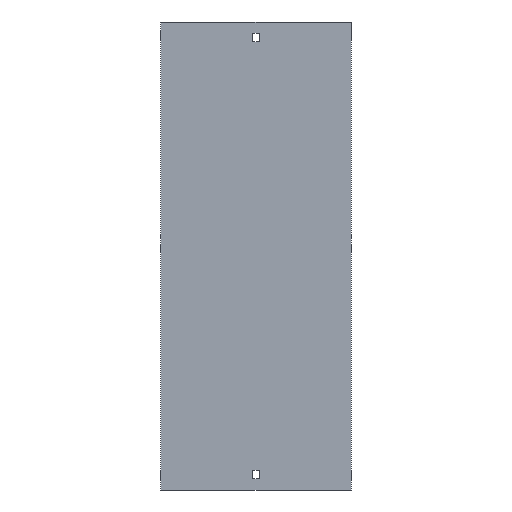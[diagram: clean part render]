
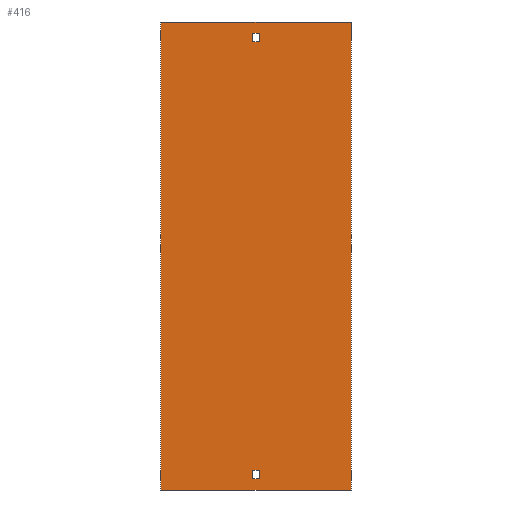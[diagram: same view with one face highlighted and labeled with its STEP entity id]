
A CAD part, front view. The second image highlights one B-rep face of the part: STEP entity #416.
In plain terms, the highlighted planar face has unit normal (0, -1, 0).
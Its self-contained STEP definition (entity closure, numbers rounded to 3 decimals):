
#20 = DIRECTION ( 'NONE',  ( -1., 0., 0. ) ) ;
#28 = ORIENTED_EDGE ( 'NONE', *, *, #365, .T. ) ;
#35 = CARTESIAN_POINT ( 'NONE',  ( -3.25, 0., 238. ) ) ;
#46 = EDGE_CURVE ( 'NONE', #728, #414, #58, .T. ) ;
#58 = LINE ( 'NONE', #500, #371 ) ;
#61 = VECTOR ( 'NONE', #1025, 1000. ) ;
#72 = VERTEX_POINT ( 'NONE', #413 ) ;
#74 = CARTESIAN_POINT ( 'NONE',  ( 3.25, 0., -229. ) ) ;
#76 = DIRECTION ( 'NONE',  ( -1., 0., 0. ) ) ;
#83 = VECTOR ( 'NONE', #792, 1000. ) ;
#89 = VERTEX_POINT ( 'NONE', #931 ) ;
#104 = EDGE_CURVE ( 'NONE', #530, #727, #322, .T. ) ;
#116 = CARTESIAN_POINT ( 'NONE',  ( 3.25, 0., -238. ) ) ;
#117 = CARTESIAN_POINT ( 'NONE',  ( -3.25, 0., -238. ) ) ;
#120 = EDGE_CURVE ( 'NONE', #678, #174, #1003, .T. ) ;
#129 = DIRECTION ( 'NONE',  ( 0., 0., -1. ) ) ;
#135 = EDGE_CURVE ( 'NONE', #666, #72, #750, .T. ) ;
#162 = DIRECTION ( 'NONE',  ( 1., 0., 0. ) ) ;
#174 = VERTEX_POINT ( 'NONE', #503 ) ;
#196 = VECTOR ( 'NONE', #162, 1000. ) ;
#197 = FACE_BOUND ( 'NONE', #903, .T. ) ;
#198 = ORIENTED_EDGE ( 'NONE', *, *, #46, .F. ) ;
#209 = CARTESIAN_POINT ( 'NONE',  ( 3.25, 0., 238. ) ) ;
#222 = VERTEX_POINT ( 'NONE', #435 ) ;
#227 = CARTESIAN_POINT ( 'NONE',  ( -102., 0., 250. ) ) ;
#233 = VECTOR ( 'NONE', #387, 1000. ) ;
#251 = VECTOR ( 'NONE', #557, 1000. ) ;
#274 = FACE_BOUND ( 'NONE', #562, .T. ) ;
#320 = VECTOR ( 'NONE', #974, 1000. ) ;
#321 = CARTESIAN_POINT ( 'NONE',  ( -102., 0., 250. ) ) ;
#322 = LINE ( 'NONE', #394, #233 ) ;
#349 = EDGE_CURVE ( 'NONE', #89, #728, #1033, .T. ) ;
#354 = ORIENTED_EDGE ( 'NONE', *, *, #845, .T. ) ;
#365 = EDGE_CURVE ( 'NONE', #901, #678, #839, .T. ) ;
#370 = VERTEX_POINT ( 'NONE', #753 ) ;
#371 = VECTOR ( 'NONE', #834, 1000. ) ;
#372 = ORIENTED_EDGE ( 'NONE', *, *, #104, .T. ) ;
#375 = CARTESIAN_POINT ( 'NONE',  ( 102., 0., 250. ) ) ;
#385 = DIRECTION ( 'NONE',  ( -1., 0., 0. ) ) ;
#387 = DIRECTION ( 'NONE',  ( 0., 0., -1. ) ) ;
#394 = CARTESIAN_POINT ( 'NONE',  ( 3.25, 0., -238. ) ) ;
#405 = ORIENTED_EDGE ( 'NONE', *, *, #1114, .F. ) ;
#413 = CARTESIAN_POINT ( 'NONE',  ( -3.25, 0., -229. ) ) ;
#414 = VERTEX_POINT ( 'NONE', #808 ) ;
#416 = ADVANCED_FACE ( 'NONE', ( #456, #274, #197 ), #889, .F. ) ;
#435 = CARTESIAN_POINT ( 'NONE',  ( 102., 0., 250. ) ) ;
#437 = CARTESIAN_POINT ( 'NONE',  ( -3.25, 0., 229. ) ) ;
#456 = FACE_OUTER_BOUND ( 'NONE', #1075, .T. ) ;
#482 = DIRECTION ( 'NONE',  ( 0., 1., 0. ) ) ;
#500 = CARTESIAN_POINT ( 'NONE',  ( -3.25, 0., 238. ) ) ;
#503 = CARTESIAN_POINT ( 'NONE',  ( 102., 0., -250. ) ) ;
#530 = VERTEX_POINT ( 'NONE', #74 ) ;
#531 = LINE ( 'NONE', #117, #886 ) ;
#557 = DIRECTION ( 'NONE',  ( 0., 0., 1. ) ) ;
#561 = ORIENTED_EDGE ( 'NONE', *, *, #120, .T. ) ;
#562 = EDGE_LOOP ( 'NONE', ( #1064, #198, #732, #405 ) ) ;
#584 = ORIENTED_EDGE ( 'NONE', *, *, #938, .F. ) ;
#586 = LINE ( 'NONE', #375, #636 ) ;
#599 = EDGE_CURVE ( 'NONE', #901, #222, #1101, .T. ) ;
#611 = LINE ( 'NONE', #437, #83 ) ;
#636 = VECTOR ( 'NONE', #129, 1000. ) ;
#651 = VECTOR ( 'NONE', #76, 1000. ) ;
#665 = CARTESIAN_POINT ( 'NONE',  ( -102., 0., -250. ) ) ;
#666 = VERTEX_POINT ( 'NONE', #1125 ) ;
#678 = VERTEX_POINT ( 'NONE', #874 ) ;
#680 = ORIENTED_EDGE ( 'NONE', *, *, #135, .T. ) ;
#697 = EDGE_CURVE ( 'NONE', #414, #370, #611, .T. ) ;
#709 = VECTOR ( 'NONE', #929, 1000. ) ;
#727 = VERTEX_POINT ( 'NONE', #116 ) ;
#728 = VERTEX_POINT ( 'NONE', #35 ) ;
#732 = ORIENTED_EDGE ( 'NONE', *, *, #349, .F. ) ;
#735 = LINE ( 'NONE', #738, #959 ) ;
#738 = CARTESIAN_POINT ( 'NONE',  ( -3.25, 0., -229. ) ) ;
#750 = LINE ( 'NONE', #769, #61 ) ;
#753 = CARTESIAN_POINT ( 'NONE',  ( 3.25, 0., 229. ) ) ;
#769 = CARTESIAN_POINT ( 'NONE',  ( -3.25, 0., -238. ) ) ;
#792 = DIRECTION ( 'NONE',  ( 1., 0., 0. ) ) ;
#808 = CARTESIAN_POINT ( 'NONE',  ( -3.25, 0., 229. ) ) ;
#812 = LINE ( 'NONE', #209, #251 ) ;
#834 = DIRECTION ( 'NONE',  ( 0., 0., -1. ) ) ;
#839 = LINE ( 'NONE', #882, #320 ) ;
#845 = EDGE_CURVE ( 'NONE', #727, #666, #531, .T. ) ;
#874 = CARTESIAN_POINT ( 'NONE',  ( -102., 0., -250. ) ) ;
#882 = CARTESIAN_POINT ( 'NONE',  ( -102., 0., 250. ) ) ;
#886 = VECTOR ( 'NONE', #20, 1000. ) ;
#889 = PLANE ( 'NONE',  #977 ) ;
#901 = VERTEX_POINT ( 'NONE', #227 ) ;
#903 = EDGE_LOOP ( 'NONE', ( #680, #1018, #372, #354 ) ) ;
#910 = ORIENTED_EDGE ( 'NONE', *, *, #599, .F. ) ;
#929 = DIRECTION ( 'NONE',  ( 1., 0., 0. ) ) ;
#931 = CARTESIAN_POINT ( 'NONE',  ( 3.25, 0., 238. ) ) ;
#938 = EDGE_CURVE ( 'NONE', #222, #174, #586, .T. ) ;
#947 = CARTESIAN_POINT ( 'NONE',  ( -3.25, 0., 238. ) ) ;
#959 = VECTOR ( 'NONE', #1080, 1000. ) ;
#974 = DIRECTION ( 'NONE',  ( 0., 0., -1. ) ) ;
#976 = EDGE_CURVE ( 'NONE', #72, #530, #735, .T. ) ;
#977 = AXIS2_PLACEMENT_3D ( 'NONE', #982, #482, #385 ) ;
#982 = CARTESIAN_POINT ( 'NONE',  ( -102., 0., 250. ) ) ;
#1003 = LINE ( 'NONE', #665, #196 ) ;
#1018 = ORIENTED_EDGE ( 'NONE', *, *, #976, .T. ) ;
#1025 = DIRECTION ( 'NONE',  ( 0., 0., 1. ) ) ;
#1033 = LINE ( 'NONE', #947, #651 ) ;
#1064 = ORIENTED_EDGE ( 'NONE', *, *, #697, .F. ) ;
#1075 = EDGE_LOOP ( 'NONE', ( #561, #584, #910, #28 ) ) ;
#1080 = DIRECTION ( 'NONE',  ( 1., 0., 0. ) ) ;
#1101 = LINE ( 'NONE', #321, #709 ) ;
#1114 = EDGE_CURVE ( 'NONE', #370, #89, #812, .T. ) ;
#1125 = CARTESIAN_POINT ( 'NONE',  ( -3.25, 0., -238. ) ) ;
